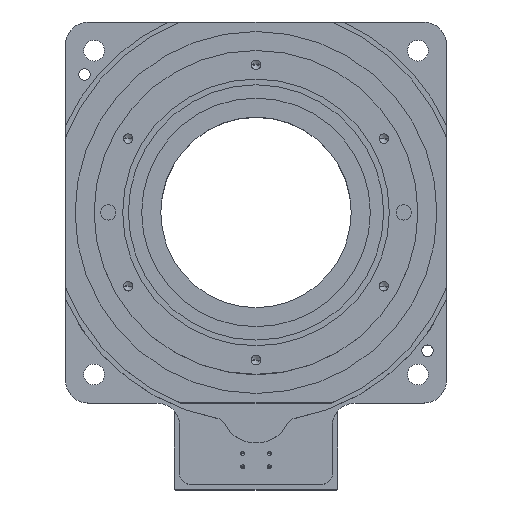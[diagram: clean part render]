
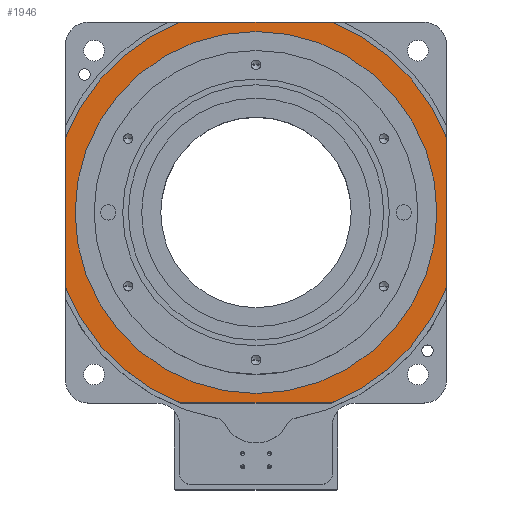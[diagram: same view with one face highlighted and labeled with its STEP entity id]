
A CAD part, top view. The second image highlights one B-rep face of the part: STEP entity #1946.
In plain terms, the highlighted planar face has unit normal (0, 0, 1).
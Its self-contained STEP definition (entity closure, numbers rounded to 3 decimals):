
#5 = VERTEX_POINT ( 'NONE', #5680 ) ;
#147 = VERTEX_POINT ( 'NONE', #201 ) ;
#201 = CARTESIAN_POINT ( 'NONE',  ( -39.449, -100., 43. ) ) ;
#472 = DIRECTION ( 'NONE',  ( 0., 0., -1. ) ) ;
#512 = ORIENTED_EDGE ( 'NONE', *, *, #3300, .T. ) ;
#523 = AXIS2_PLACEMENT_3D ( 'NONE', #849, #5961, #2176 ) ;
#570 = VERTEX_POINT ( 'NONE', #4449 ) ;
#660 = VERTEX_POINT ( 'NONE', #1151 ) ;
#819 = EDGE_CURVE ( 'NONE', #660, #1132, #5732, .T. ) ;
#825 = AXIS2_PLACEMENT_3D ( 'NONE', #2404, #472, #3256 ) ;
#849 = CARTESIAN_POINT ( 'NONE',  ( 0., 0., 43. ) ) ;
#931 = DIRECTION ( 'NONE',  ( 0., 0., 1. ) ) ;
#980 = EDGE_CURVE ( 'NONE', #147, #1399, #5040, .T. ) ;
#987 = FACE_OUTER_BOUND ( 'NONE', #4370, .T. ) ;
#1000 = ORIENTED_EDGE ( 'NONE', *, *, #4694, .F. ) ;
#1005 = CARTESIAN_POINT ( 'NONE',  ( 100., 39.449, 43. ) ) ;
#1011 = CARTESIAN_POINT ( 'NONE',  ( -88., 100., 43. ) ) ;
#1036 = AXIS2_PLACEMENT_3D ( 'NONE', #1178, #4843, #5326 ) ;
#1132 = VERTEX_POINT ( 'NONE', #3218 ) ;
#1151 = CARTESIAN_POINT ( 'NONE',  ( 39.449, 100., 43. ) ) ;
#1178 = CARTESIAN_POINT ( 'NONE',  ( 0., 0., 43. ) ) ;
#1208 = AXIS2_PLACEMENT_3D ( 'NONE', #4343, #2536, #2563 ) ;
#1244 = EDGE_CURVE ( 'NONE', #1399, #5, #5744, .T. ) ;
#1279 = ORIENTED_EDGE ( 'NONE', *, *, #1244, .T. ) ;
#1343 = CARTESIAN_POINT ( 'NONE',  ( -100., 39.449, 43. ) ) ;
#1399 = VERTEX_POINT ( 'NONE', #2711 ) ;
#1503 = CIRCLE ( 'NONE', #1208, 95. ) ;
#1753 = VERTEX_POINT ( 'NONE', #2338 ) ;
#1802 = VECTOR ( 'NONE', #4691, 1000. ) ;
#1844 = LINE ( 'NONE', #3707, #2583 ) ;
#1851 = CARTESIAN_POINT ( 'NONE',  ( 0., 0., 43. ) ) ;
#1879 = ORIENTED_EDGE ( 'NONE', *, *, #5189, .T. ) ;
#1919 = VECTOR ( 'NONE', #5069, 1000. ) ;
#1941 = CARTESIAN_POINT ( 'NONE',  ( -100., -39.449, 43. ) ) ;
#1946 = ADVANCED_FACE ( 'NONE', ( #987, #4270 ), #1958, .F. ) ;
#1954 = EDGE_CURVE ( 'NONE', #4013, #147, #4816, .T. ) ;
#1958 = PLANE ( 'NONE',  #825 ) ;
#2018 = AXIS2_PLACEMENT_3D ( 'NONE', #3929, #2108, #3967 ) ;
#2108 = DIRECTION ( 'NONE',  ( 0., 0., 1. ) ) ;
#2176 = DIRECTION ( 'NONE',  ( 1., 0., 0. ) ) ;
#2201 = ORIENTED_EDGE ( 'NONE', *, *, #980, .T. ) ;
#2338 = CARTESIAN_POINT ( 'NONE',  ( 95., 0., 43. ) ) ;
#2363 = DIRECTION ( 'NONE',  ( 0., 0., 1. ) ) ;
#2404 = CARTESIAN_POINT ( 'NONE',  ( -88., -88., 43. ) ) ;
#2536 = DIRECTION ( 'NONE',  ( 0., 0., 1. ) ) ;
#2538 = ORIENTED_EDGE ( 'NONE', *, *, #3436, .T. ) ;
#2563 = DIRECTION ( 'NONE',  ( 1., 0., 0. ) ) ;
#2583 = VECTOR ( 'NONE', #2841, 1000. ) ;
#2711 = CARTESIAN_POINT ( 'NONE',  ( 39.449, -100., 43. ) ) ;
#2769 = CIRCLE ( 'NONE', #523, 107.5 ) ;
#2801 = VERTEX_POINT ( 'NONE', #1005 ) ;
#2826 = DIRECTION ( 'NONE',  ( 1., 0., 0. ) ) ;
#2841 = DIRECTION ( 'NONE',  ( 0., -1., 0. ) ) ;
#2849 = ORIENTED_EDGE ( 'NONE', *, *, #819, .T. ) ;
#2905 = CIRCLE ( 'NONE', #1036, 107.5 ) ;
#3218 = CARTESIAN_POINT ( 'NONE',  ( -39.449, 100., 43. ) ) ;
#3256 = DIRECTION ( 'NONE',  ( 0., -1., 0. ) ) ;
#3300 = EDGE_CURVE ( 'NONE', #2801, #660, #2905, .T. ) ;
#3436 = EDGE_CURVE ( 'NONE', #1132, #4017, #2769, .T. ) ;
#3599 = EDGE_CURVE ( 'NONE', #5, #2801, #4243, .T. ) ;
#3707 = CARTESIAN_POINT ( 'NONE',  ( -100., 88., 43. ) ) ;
#3715 = DIRECTION ( 'NONE',  ( 1., 0., 0. ) ) ;
#3725 = CARTESIAN_POINT ( 'NONE',  ( 100., 88., 43. ) ) ;
#3752 = ORIENTED_EDGE ( 'NONE', *, *, #3599, .T. ) ;
#3929 = CARTESIAN_POINT ( 'NONE',  ( 0., 0., 43. ) ) ;
#3944 = VECTOR ( 'NONE', #4747, 1000. ) ;
#3967 = DIRECTION ( 'NONE',  ( 1., 0., 0. ) ) ;
#4013 = VERTEX_POINT ( 'NONE', #1941 ) ;
#4017 = VERTEX_POINT ( 'NONE', #1343 ) ;
#4178 = CARTESIAN_POINT ( 'NONE',  ( 0., 0., 43. ) ) ;
#4243 = LINE ( 'NONE', #3725, #1802 ) ;
#4270 = FACE_BOUND ( 'NONE', #4598, .T. ) ;
#4343 = CARTESIAN_POINT ( 'NONE',  ( 0., 0., 43. ) ) ;
#4370 = EDGE_LOOP ( 'NONE', ( #2538, #1879, #5323, #2201, #1279, #3752, #512, #2849 ) ) ;
#4449 = CARTESIAN_POINT ( 'NONE',  ( -95., 0., 43. ) ) ;
#4598 = EDGE_LOOP ( 'NONE', ( #1000, #5895 ) ) ;
#4691 = DIRECTION ( 'NONE',  ( 0., 1., 0. ) ) ;
#4694 = EDGE_CURVE ( 'NONE', #1753, #570, #5485, .T. ) ;
#4747 = DIRECTION ( 'NONE',  ( -1., 0., 0. ) ) ;
#4816 = CIRCLE ( 'NONE', #5690, 107.5 ) ;
#4843 = DIRECTION ( 'NONE',  ( 0., 0., 1. ) ) ;
#4860 = EDGE_CURVE ( 'NONE', #570, #1753, #1503, .T. ) ;
#5040 = LINE ( 'NONE', #5919, #1919 ) ;
#5069 = DIRECTION ( 'NONE',  ( 1., 0., 0. ) ) ;
#5189 = EDGE_CURVE ( 'NONE', #4017, #4013, #1844, .T. ) ;
#5323 = ORIENTED_EDGE ( 'NONE', *, *, #1954, .T. ) ;
#5326 = DIRECTION ( 'NONE',  ( 1., 0., 0. ) ) ;
#5386 = AXIS2_PLACEMENT_3D ( 'NONE', #1851, #2363, #3715 ) ;
#5485 = CIRCLE ( 'NONE', #5386, 95. ) ;
#5680 = CARTESIAN_POINT ( 'NONE',  ( 100., -39.449, 43. ) ) ;
#5690 = AXIS2_PLACEMENT_3D ( 'NONE', #4178, #931, #2826 ) ;
#5732 = LINE ( 'NONE', #1011, #3944 ) ;
#5744 = CIRCLE ( 'NONE', #2018, 107.5 ) ;
#5895 = ORIENTED_EDGE ( 'NONE', *, *, #4860, .F. ) ;
#5919 = CARTESIAN_POINT ( 'NONE',  ( -39.449, -100., 43. ) ) ;
#5961 = DIRECTION ( 'NONE',  ( 0., 0., 1. ) ) ;
